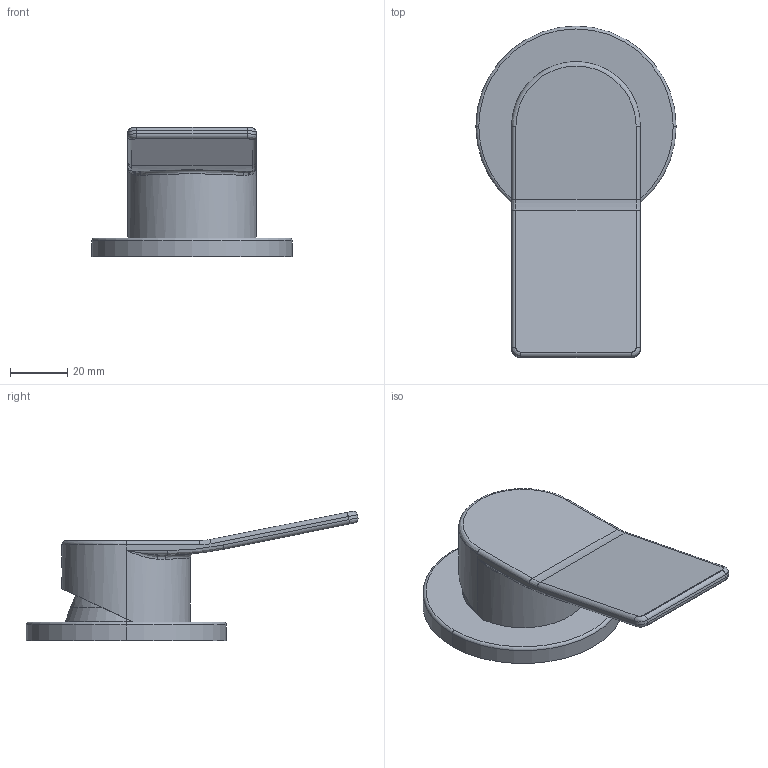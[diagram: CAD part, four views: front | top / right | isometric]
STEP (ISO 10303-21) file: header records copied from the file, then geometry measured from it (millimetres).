
FILE_DESCRIPTION (( 'STEP AP203' ), '1' );
FILE_NAME ('85217810 x architetti.STEP', '2026-06-15T12:14:11', ( '' ), ( '' ), 'SwSTEP 2.0', 'SolidWorks 2020', '' );
FILE_SCHEMA (( 'CONFIG_CONTROL_DESIGN' ));
Length unit declared in the file: millimetre
Products named in the file (1): 85217810 x architetti
Bounding box: 70 x 116.06 x 45.2 mm (x, y, z)
Volume: 71523.2 mm3; surface area: 29637.3 mm2
Topology: 1 solids, 1 shells, 79 faces, 177 edges, 104 vertices
Faces by surface type: cylinder 33, plane 17, bspline 14, cone 7, torus 4, sphere 4
Entity records: 3028 total; most frequent: CARTESIAN_POINT 1285, ORIENTED_EDGE 350, DIRECTION 348, EDGE_CURVE 175, AXIS2_PLACEMENT_3D 145, VERTEX_POINT 104, EDGE_LOOP 87, FACE_OUTER_BOUND 79
